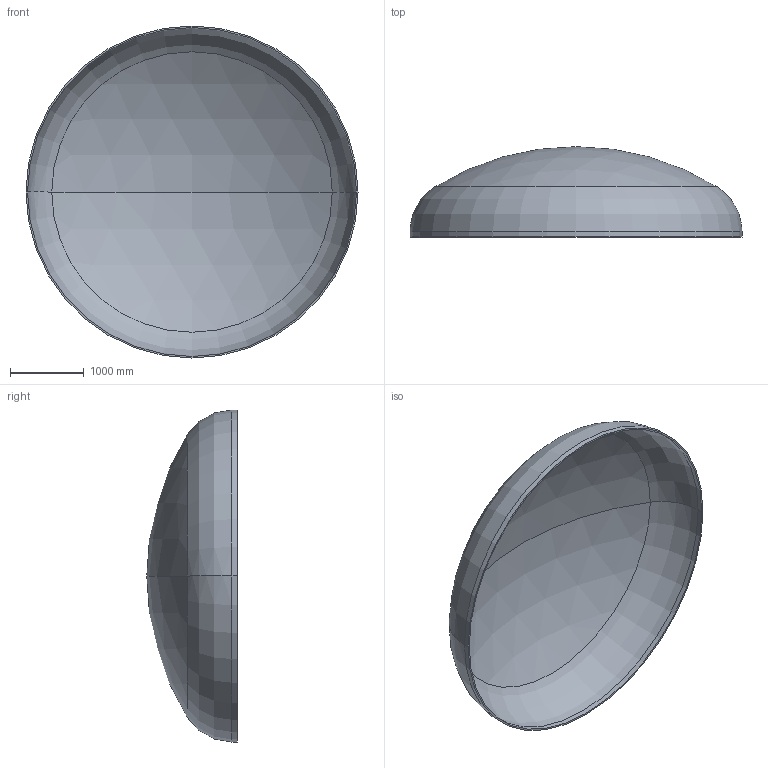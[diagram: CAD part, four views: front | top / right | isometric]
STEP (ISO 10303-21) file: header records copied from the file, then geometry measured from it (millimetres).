
FILE_DESCRIPTION (( 'STEP AP203' ), '1' );
FILE_NAME ('DIN 28013 Korbbogenform_-_Boden DIN 28013 - 4500 x 70 - I - s=21.step', '2016-07-01T23:09:41', ( '' ), ( '' ), 'SwSTEP 2.0', 'SolidWorks 2013', '' );
FILE_SCHEMA (( 'CONFIG_CONTROL_DESIGN' ));
Length unit declared in the file: millimetre
Products named in the file (1): DIN 28013 Korbbogenform_-_Boden DIN 28013 - 4500 x 70 - I - s=21
Bounding box: 4500 x 1224.04 x 4500 mm (x, y, z)
Volume: 480688679.5 mm3; surface area: 46076274.8 mm2
Topology: 1 solids, 1 shells, 13 faces, 24 edges, 14 vertices
Faces by surface type: torus 4, cylinder 4, sphere 4, plane 1
Entity records: 407 total; most frequent: DIRECTION 72, CARTESIAN_POINT 52, ORIENTED_EDGE 48, AXIS2_PLACEMENT_3D 34, EDGE_CURVE 24, CIRCLE 20, EDGE_LOOP 14, VERTEX_POINT 14
